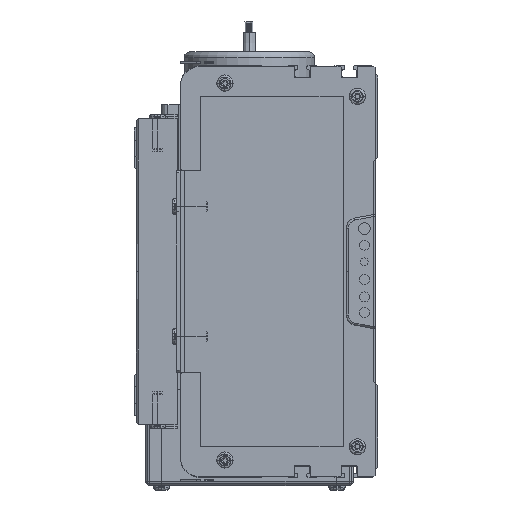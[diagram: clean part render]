
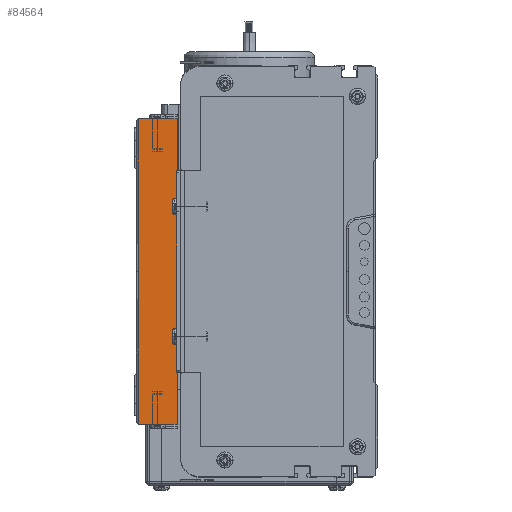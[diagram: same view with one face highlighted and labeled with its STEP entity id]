
A CAD part, left-side view. The second image highlights one B-rep face of the part: STEP entity #84564.
In plain terms, the highlighted planar face has unit normal (-1, 0, 0).
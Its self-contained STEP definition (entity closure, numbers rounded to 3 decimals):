
#21007 = DIRECTION ( 'NONE',  ( 0., 0., 1. ) ) ;
#21008 = VECTOR ( 'NONE', #21007, 1000. ) ;
#24077 = CARTESIAN_POINT ( 'NONE',  ( 0., 0., 0. ) ) ;
#24078 = LINE ( 'NONE', #24077, #21008 ) ;
#24554 = DIRECTION ( 'NONE',  ( 0., -1., 0. ) ) ;
#24909 = VECTOR ( 'NONE', #24554, 1000. ) ;
#24912 = CARTESIAN_POINT ( 'NONE',  ( 0., 20., 75. ) ) ;
#24914 = LINE ( 'NONE', #24912, #24909 ) ;
#24940 = CARTESIAN_POINT ( 'NONE',  ( 0., 0., -75. ) ) ;
#25087 = CARTESIAN_POINT ( 'NONE',  ( 0., 19., 75. ) ) ;
#26207 = CARTESIAN_POINT ( 'NONE',  ( 0., 19., 0. ) ) ;
#26660 = DIRECTION ( 'NONE',  ( 0., 0., -1. ) ) ;
#26662 = VECTOR ( 'NONE', #26660, 1000. ) ;
#26665 = CARTESIAN_POINT ( 'NONE',  ( 0., 19., 0. ) ) ;
#26666 = LINE ( 'NONE', #26665, #26662 ) ;
#26671 = CARTESIAN_POINT ( 'NONE',  ( 0., 19., -75. ) ) ;
#72966 = DIRECTION ( 'NONE',  ( 0., 0., -1. ) ) ;
#72967 = DIRECTION ( 'NONE',  ( 1., 0., 0. ) ) ;
#72969 = CARTESIAN_POINT ( 'NONE',  ( 0., 20., 0. ) ) ;
#72970 = LINE ( 'NONE', #73067, #73066 ) ;
#72977 = PLANE ( 'NONE',  #72985 ) ;
#72979 = FACE_OUTER_BOUND ( 'NONE', #84525, .T. ) ;
#72985 = AXIS2_PLACEMENT_3D ( 'NONE', #72969, #72967, #72966 ) ;
#73026 = DIRECTION ( 'NONE',  ( 0., 0., -1. ) ) ;
#73027 = VECTOR ( 'NONE', #73026, 1000. ) ;
#73030 = CARTESIAN_POINT ( 'NONE',  ( 0., 19., 0. ) ) ;
#73056 = LINE ( 'NONE', #73030, #73027 ) ;
#73065 = DIRECTION ( 'NONE',  ( 0., -1., 0. ) ) ;
#73066 = VECTOR ( 'NONE', #73065, 1000. ) ;
#73067 = CARTESIAN_POINT ( 'NONE',  ( 0., 20., -75. ) ) ;
#83895 = EDGE_CURVE ( 'NONE', #84057, #90405, #24914, .T. ) ;
#84037 = VERTEX_POINT ( 'NONE', #24940 ) ;
#84040 = EDGE_CURVE ( 'NONE', #84037, #90405, #24078, .T. ) ;
#84057 = VERTEX_POINT ( 'NONE', #25087 ) ;
#84214 = VERTEX_POINT ( 'NONE', #26207 ) ;
#84216 = ORIENTED_EDGE ( 'NONE', *, *, #84040, .T. ) ;
#84219 = ORIENTED_EDGE ( 'NONE', *, *, #84570, .T. ) ;
#84281 = EDGE_CURVE ( 'NONE', #84057, #84214, #26666, .T. ) ;
#84291 = VERTEX_POINT ( 'NONE', #26671 ) ;
#84479 = ORIENTED_EDGE ( 'NONE', *, *, #84587, .T. ) ;
#84525 = EDGE_LOOP ( 'NONE', ( #84578, #84606, #84479, #84219, #84216 ) ) ;
#84564 = ADVANCED_FACE ( 'NONE', ( #72979 ), #72977, .F. ) ;
#84570 = EDGE_CURVE ( 'NONE', #84291, #84037, #72970, .T. ) ;
#84578 = ORIENTED_EDGE ( 'NONE', *, *, #83895, .F. ) ;
#84587 = EDGE_CURVE ( 'NONE', #84214, #84291, #73056, .T. ) ;
#84606 = ORIENTED_EDGE ( 'NONE', *, *, #84281, .T. ) ;
#90405 = VERTEX_POINT ( 'NONE', #101001 ) ;
#101001 = CARTESIAN_POINT ( 'NONE',  ( 0., 0., 75. ) ) ;
